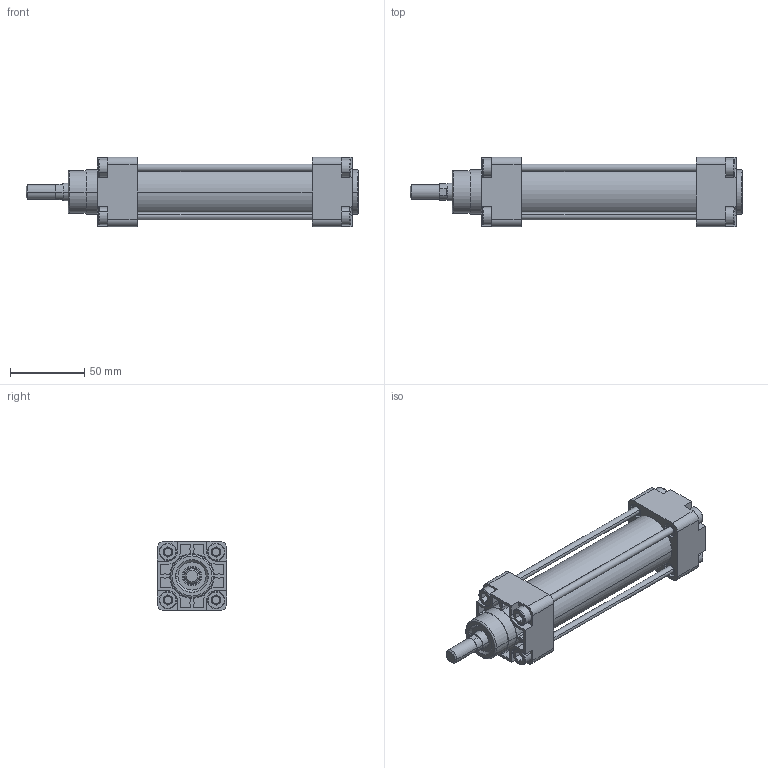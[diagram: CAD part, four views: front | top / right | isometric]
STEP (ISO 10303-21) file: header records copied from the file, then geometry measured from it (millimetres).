
FILE_DESCRIPTION(('CATIA V5 STEP Exchange'),'2;1');
FILE_NAME('D:\stp file for catalog\PNC\32\PNC 32-12-80.stp','2015-05-25T07:46:43+00:00',('none'),('none'),'Version 5-6 Release 2012','CATIA V5 STEP AP203','none');
FILE_SCHEMA(('CONFIG_CONTROL_DESIGN'));
Length unit declared in the file: millimetre
Products named in the file (1): PNC 32-12-80-00
Assembly tree (2 placements, depth 2):
  PNC 32-12-80-00
    #58
    #15737
Bounding box: 224 x 47 x 47 mm (x, y, z)
Volume: 182298.5 mm3; surface area: 82989.2 mm2
Topology: 6 solids, 6 shells, 587 faces, 1488 edges, 974 vertices
Faces by surface type: plane 359, cylinder 166, torus 26, cone 20, extrusion 16
Entity records: 16261 total; most frequent: CARTESIAN_POINT 3407, ORIENTED_EDGE 2976, DIRECTION 1948, EDGE_CURVE 1488, VERTEX_POINT 974, VECTOR 896, LINE 880, AXIS2_PLACEMENT_3D 773
